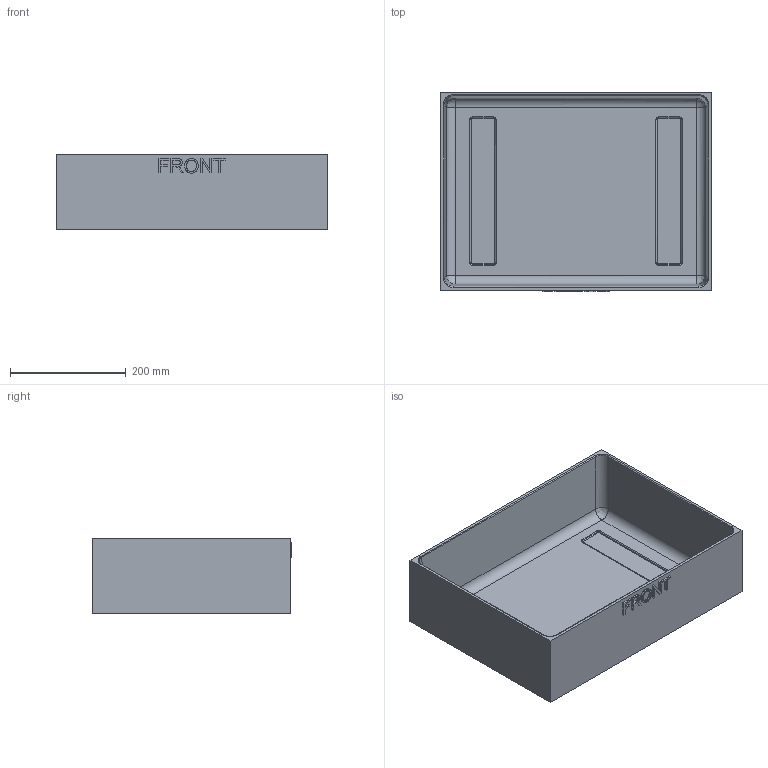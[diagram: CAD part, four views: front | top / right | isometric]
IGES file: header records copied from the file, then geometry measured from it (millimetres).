
Start section: Comment
Global section: file name: 2400-base_internal_tub.igs; native system:  By UGS Corp.; preprocessor: XPlus GENERIC/IGES 3.0; author: Author; organization: Title; date: 20100513.083907; units: millimetre
Bounding box: 469.9 x 346.07 x 130.18 mm (x, y, z)
Surface area: 709473.8 mm2 (no closed solid volume)
Topology: 0 solids, 0 shells, 113 faces, 642 edges, 638 vertices
Faces by surface type: bspline 113
